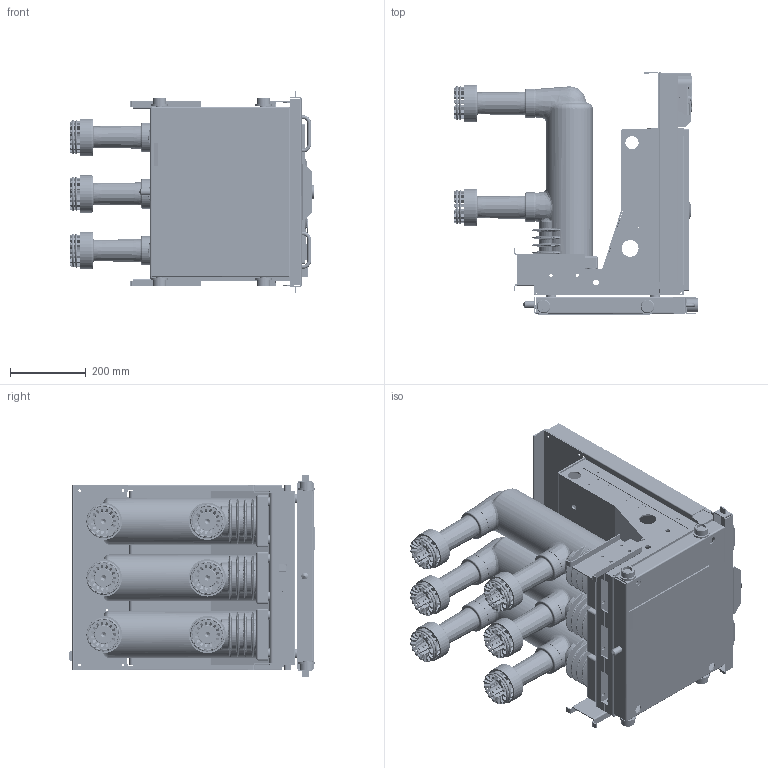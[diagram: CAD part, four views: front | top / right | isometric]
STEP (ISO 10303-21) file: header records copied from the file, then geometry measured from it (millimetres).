
FILE_DESCRIPTION(('STEP AP242'), '1');
FILE_NAME('OptiMat BB-10-20 (50)630(1250) -2-MB(MM)-1_闷仁.674152.007', '', ('UNSPECIFIED'), ('UNSPECIFIED'), 'C3D Converter', 'C3D Toolkit', '');
FILE_SCHEMA(('AP242_MANAGED_MODEL_BASED_3D_ENGINEERING_MIM_LF { 1 0 10303 442 1 1 4 }'));
Length unit declared in the file: millimetre
Products named in the file (1): OptiMat BB-10-20 (50)630(1250) -2-MB(MM)-1_ГЖИК.674152.007
Bounding box: 646.42 x 653 x 535 mm (x, y, z)
Volume: 25140960.1 mm3; surface area: 5402953.7 mm2
Topology: 5 solids, 5 shells, 4590 faces, 13944 edges, 8748 vertices
Faces by surface type: plane 2163, cylinder 1843, torus 224, bspline 198, cone 136, sphere 26
Full cylindrical faces by diameter (mm): 2 x2, 4 x6, 4.2 x1, 4.3 x1, 4.714 x3, 5 x41, 5.2 x4, 6 x13, 6.4 x1, 6.6 x4, 7 x25, 7.4 x2, 8 x5, 8.5 x12, 8.571 x3, 9 x8, 10 x8, 10.2 x4, 11 x13, 12.4 x2, 12.5 x1, 14 x8, 15 x2, 16 x13, 18 x12, 18.5 x7, 20 x9, 22 x4, 24 x16, 25 x3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
Entity records: 266867 total; most frequent: CARTESIAN_POINT 106455, ORIENTED_EDGE 26712, DIRECTION 24535, EDGE_CURVE 13356, AXIS2_PLACEMENT_3D 8783, VERTEX_POINT 8699, LINE 6969, VECTOR 6969
